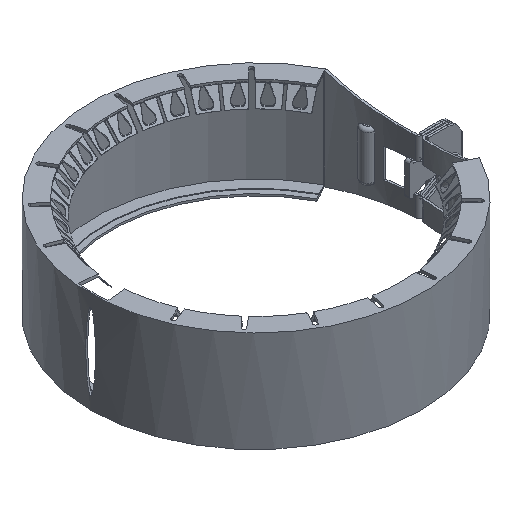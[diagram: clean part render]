
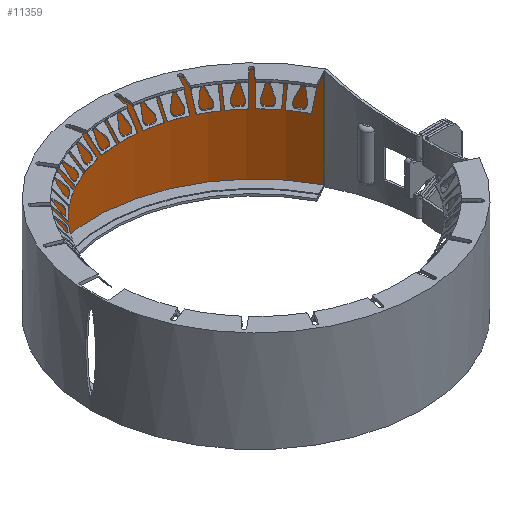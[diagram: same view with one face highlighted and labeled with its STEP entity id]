
A CAD part, isometric view. The second image highlights one B-rep face of the part: STEP entity #11359.
In plain terms, the highlighted cylindrical face has radius 65.85 mm (diameter 131.7 mm), a partial arc.
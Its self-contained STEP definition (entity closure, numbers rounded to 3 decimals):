
#1529=LINE('',#21651,#2342);
#1530=LINE('',#21652,#2343);
#2342=VECTOR('',#14972,38.8);
#2343=VECTOR('',#14973,38.8);
#2742=CIRCLE('',#12274,65.85);
#2752=CIRCLE('',#12304,65.85);
#2914=CYLINDRICAL_SURFACE('',#12305,65.85);
#3452=FACE_OUTER_BOUND('',#4049,.T.);
#4049=EDGE_LOOP('',(#10108,#10109,#10110,#10111));
#5280=VERTEX_POINT('',#21581);
#5281=VERTEX_POINT('',#21583);
#5294=VERTEX_POINT('',#21645);
#5295=VERTEX_POINT('',#21647);
#6902=EDGE_CURVE('',#5280,#5281,#2742,.T.);
#6929=EDGE_CURVE('',#5294,#5295,#2752,.T.);
#6930=EDGE_CURVE('',#5294,#5280,#1529,.T.);
#6931=EDGE_CURVE('',#5281,#5295,#1530,.T.);
#10108=ORIENTED_EDGE('',*,*,#6930,.F.);
#10109=ORIENTED_EDGE('',*,*,#6929,.T.);
#10110=ORIENTED_EDGE('',*,*,#6931,.F.);
#10111=ORIENTED_EDGE('',*,*,#6902,.F.);
#11359=ADVANCED_FACE('',(#3452),#2914,.F.);
#12274=AXIS2_PLACEMENT_3D('',#21584,#14893,#14894);
#12304=AXIS2_PLACEMENT_3D('',#21649,#14968,#14969);
#12305=AXIS2_PLACEMENT_3D('',#21650,#14970,#14971);
#14893=DIRECTION('center_axis',(0.,0.,
-1.));
#14894=DIRECTION('ref_axis',(-0.996,0.09,0.));
#14968=DIRECTION('center_axis',(0.,0.,
-1.));
#14969=DIRECTION('ref_axis',(-0.996,0.09,0.));
#14970=DIRECTION('center_axis',(0.,0.,
-1.));
#14971=DIRECTION('ref_axis',(-0.996,0.09,0.));
#14972=DIRECTION('',(0.,0.,1.));
#14973=DIRECTION('',(0.,0.,-1.));
#21581=CARTESIAN_POINT('',(-65.581,5.946,19.4));
#21583=CARTESIAN_POINT('',(58.245,30.721,19.4));
#21584=CARTESIAN_POINT('Origin',(0.,0.,
19.4));
#21645=CARTESIAN_POINT('',(-65.581,5.946,-19.4));
#21647=CARTESIAN_POINT('',(58.245,30.721,-19.4));
#21649=CARTESIAN_POINT('Origin',(0.,0.,
-19.4));
#21650=CARTESIAN_POINT('Origin',(0.,0.,
0.));
#21651=CARTESIAN_POINT('',(-65.581,5.946,-19.4));
#21652=CARTESIAN_POINT('',(58.245,30.721,-19.4));
